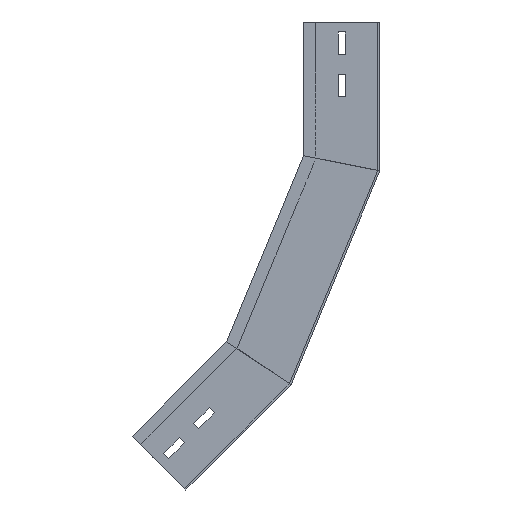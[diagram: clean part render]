
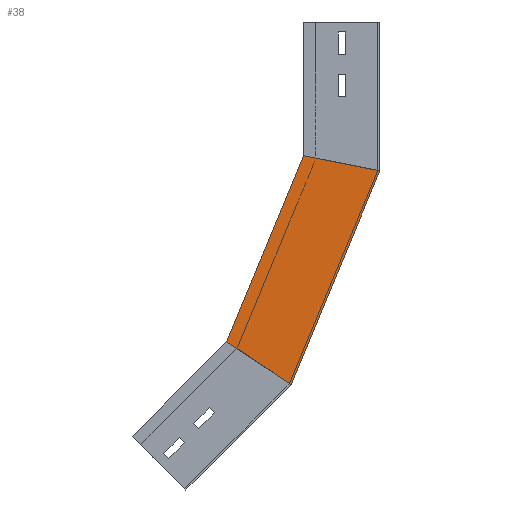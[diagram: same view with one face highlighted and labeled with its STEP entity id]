
A CAD part, left-side view. The second image highlights one B-rep face of the part: STEP entity #38.
In plain terms, the highlighted planar face has unit normal (-1, 0, 0) as drawn and (1, 0, 0) by its records, which use the part's own axes.
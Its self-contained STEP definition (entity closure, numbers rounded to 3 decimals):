
#27 = CARTESIAN_POINT ( 'NONE',  ( 0., 0., -146.6 ) ) ;
#38 = ADVANCED_FACE ( 'NONE', ( #794 ), #681, .F. ) ;
#63 = AXIS2_PLACEMENT_3D ( 'NONE', #696, #1250, #129 ) ;
#129 = DIRECTION ( 'NONE',  ( 0., 0., 1. ) ) ;
#137 = ORIENTED_EDGE ( 'NONE', *, *, #422, .F. ) ;
#170 = DIRECTION ( 'NONE',  ( 0., 0.383, -0.924 ) ) ;
#174 = ORIENTED_EDGE ( 'NONE', *, *, #1100, .F. ) ;
#220 = VECTOR ( 'NONE', #170, 1000. ) ;
#224 = CARTESIAN_POINT ( 'NONE',  ( 0., 69.291, -117.899 ) ) ;
#287 = VERTEX_POINT ( 'NONE', #758 ) ;
#386 = VECTOR ( 'NONE', #665, 1000. ) ;
#422 = EDGE_CURVE ( 'NONE', #593, #287, #1367, .T. ) ;
#471 = DIRECTION ( 'NONE',  ( 0., 0.383, -0.924 ) ) ;
#485 = EDGE_LOOP ( 'NONE', ( #137, #1351, #1430, #174 ) ) ;
#563 = CARTESIAN_POINT ( 'NONE',  ( 0., 124.345, -332.696 ) ) ;
#593 = VERTEX_POINT ( 'NONE', #1417 ) ;
#614 = EDGE_CURVE ( 'NONE', #710, #1039, #1062, .T. ) ;
#665 = DIRECTION ( 'NONE',  ( 0., -0.981, -0.195 ) ) ;
#681 = PLANE ( 'NONE',  #63 ) ;
#696 = CARTESIAN_POINT ( 'NONE',  ( 0., 0., -146.6 ) ) ;
#710 = VERTEX_POINT ( 'NONE', #1452 ) ;
#758 = CARTESIAN_POINT ( 'NONE',  ( 0., 150.91, -314.945 ) ) ;
#794 = FACE_OUTER_BOUND ( 'NONE', #485, .T. ) ;
#1009 = LINE ( 'NONE', #1251, #386 ) ;
#1039 = VERTEX_POINT ( 'NONE', #1090 ) ;
#1062 = LINE ( 'NONE', #27, #220 ) ;
#1090 = CARTESIAN_POINT ( 'NONE',  ( 0., 87.328, -357.429 ) ) ;
#1100 = EDGE_CURVE ( 'NONE', #287, #1039, #1478, .T. ) ;
#1124 = DIRECTION ( 'NONE',  ( 0., -0.831, -0.556 ) ) ;
#1129 = VECTOR ( 'NONE', #471, 1000. ) ;
#1162 = EDGE_CURVE ( 'NONE', #593, #710, #1009, .T. ) ;
#1250 = DIRECTION ( 'NONE',  ( -1., 0., 0. ) ) ;
#1251 = CARTESIAN_POINT ( 'NONE',  ( 0., 28.051, -141.02 ) ) ;
#1334 = VECTOR ( 'NONE', #1124, 1000. ) ;
#1351 = ORIENTED_EDGE ( 'NONE', *, *, #1162, .T. ) ;
#1367 = LINE ( 'NONE', #224, #1129 ) ;
#1417 = CARTESIAN_POINT ( 'NONE',  ( 0., 75., -131.682 ) ) ;
#1430 = ORIENTED_EDGE ( 'NONE', *, *, #614, .T. ) ;
#1452 = CARTESIAN_POINT ( 'NONE',  ( 0., 0., -146.6 ) ) ;
#1478 = LINE ( 'NONE', #563, #1334 ) ;
